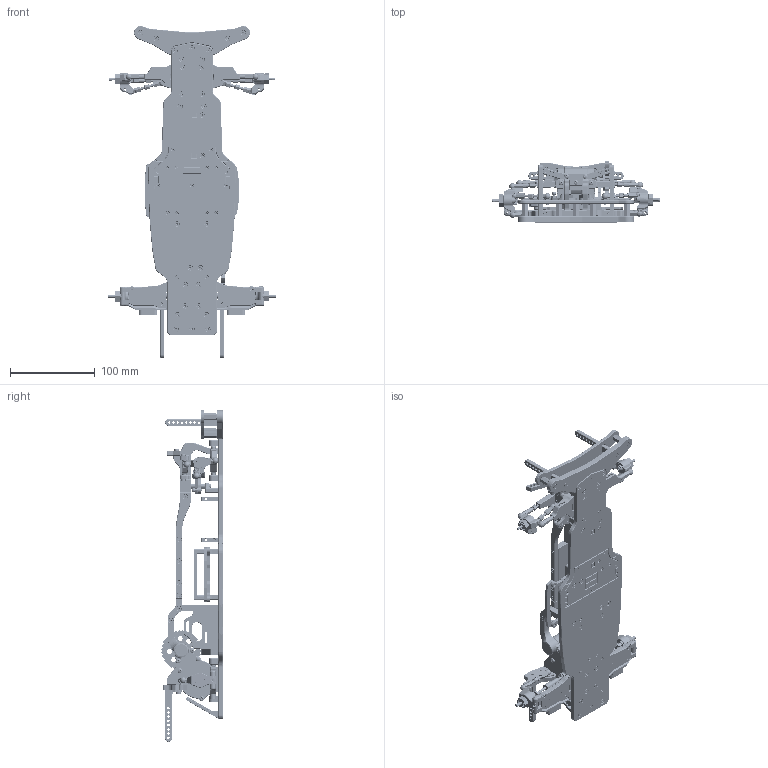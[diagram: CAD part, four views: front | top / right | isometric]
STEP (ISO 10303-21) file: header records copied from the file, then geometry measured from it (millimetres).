
FILE_DESCRIPTION (( 'STEP AP214' ), '1' );
FILE_NAME ('RC_Chassis_Assembly_V2.STEP', '2024-06-22T06:00:53', ( '' ), ( '' ), 'SwSTEP 2.0', 'SolidWorks 2022', '' );
FILE_SCHEMA (( 'AUTOMOTIVE_DESIGN' ));
Length unit declared in the file: millimetre
Products named in the file (89): Chassis_Plate; Steering_Spacer_Upper; Steering_Spacer_Lower; Rear_Axle_4; Front_Module_Assembly; GearBox_Case_RHS; Rear_Module_Assembly; Ball Stud 4,8x5; Steering_Support; Front_Bumper_Hex; Spacer_3x6x3; 20TM0,6x10_Gear; M2x6_Countersunk; Front_Shock_Tower; Battery_Holder_Short_Combined; 48P87T_5mm_Spur; 10x15x4_Bearing; Steering_Arm_RHS; Knuckle_Assembly_LHS; Front_Lower_Arm_LHS; Rear_Axle_Joint; Steering Bracket; Rear_ESC_Mount; Pin 3x42; Front_Bumper_Upper; Motor_Mount_Bracket_LHS; Rear_Axle_1; RodEnd_4,8x22mm; 5x11x4_Bearing; 60TM0,6x10_Gear; M3x40_RoundHead; Pin 2x9,5; Front_Upper_Arm_LHS; Front_Upper_Arm_RHS; Rear_Axle; 8x12x3,5_Bearing; Front_Axle; RC_Chassis_Assembly_V2; Rear_Upper_Link_Assembly; Pin 2x27,5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
Assembly tree (291 placements, depth 4):
  RC_Chassis_Assembly_V2
    Chassis_Plate
    Front_Suspension_Mount  x2
    Rear_Suspension_Mount  x2
    Rear_Lower_Arm_LHS
    Rear_Lower_Arm_RHS
    Pin 3x42  x4
    Spacer_3x5,5x2  x4
    Front_Lower_Arm_LHS
    Front_Lower_Arm_RHS
    Spacer_3x6x3  x4
    Servo_Bracket  x2
    Front_Module_Assembly
      Steering Bracket
      Steering_Arm_LHS
      Steering_Arm_Main
      Steering_Arm_RHS
      Steering_Arm_Servo
      Front_Upper_Arm_Mount_LHS
      Front_Upper_Arm_Mount_RHS
      Steering_Spacer_Upper  x2
      Steering_Spacer_Lower  x2
      3x6x2,5_Bearing  x8
      Steering_Support
      M3x30_RoundHead  x2
      M3x10_RoundHead  x5
      M3x10_Countersunk  x4
      Front_Upper_Arm_LHS
      Front_Upper_Arm_RHS
      Pin 2x27,5  x2
      Spacer_2x5x2  x4
      M3x5_RoundHead  x4
      Front_Shock_Tower
      M2x6_Countersunk  x2
      Turnbuckle_25mm  x2
      Ball Stud 4,8x5  x3
      RodEnd_4,8x22mm  x2
    M3x40_RoundHead  x2
    RodEnd_4,8x22mm  x2
    Knuckle_Assembly_LHS
      Knuckle_Front_LHS
      Ball Stud 4,8x5  x3
      5x11x4_Bearing  x2
      Front_Axle
      M3x25_RoundHead
      Hex_12_Front
    Knuckle_Assembly_RHS
      Knuckle_Front_RHS
      5x11x4_Bearing  x2
      Ball Stud 4,8x5  x3
      Front_Axle
      M3x25_RoundHead
      Hex_12_Front
    Steering_Link_Assembly  x2
      RodEnd_4,8x16mm
      Turnbuckle_25mm
    Rear_Module_Assembly
      GearBox_Case_LHS
      GearBox_Case_RHS
      20TM0,6x10_Gear
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Bounding box: 198.23 x 72.34 x 392.18 mm (x, y, z)
Volume: 432481 mm3; surface area: 312359 mm2
Topology: 302 solids, 302 shells, 14201 faces, 33317 edges, 19853 vertices
Faces by surface type: plane 6376, cylinder 3746, cone 3283, torus 450, bspline 184, sphere 162
Entity records: 236875 total; most frequent: CARTESIAN_POINT 52168, DIRECTION 39995, ORIENTED_EDGE 36170, EDGE_CURVE 18085, AXIS2_PLACEMENT_3D 15027, VERTEX_POINT 10881, LINE 9941, VECTOR 9941
